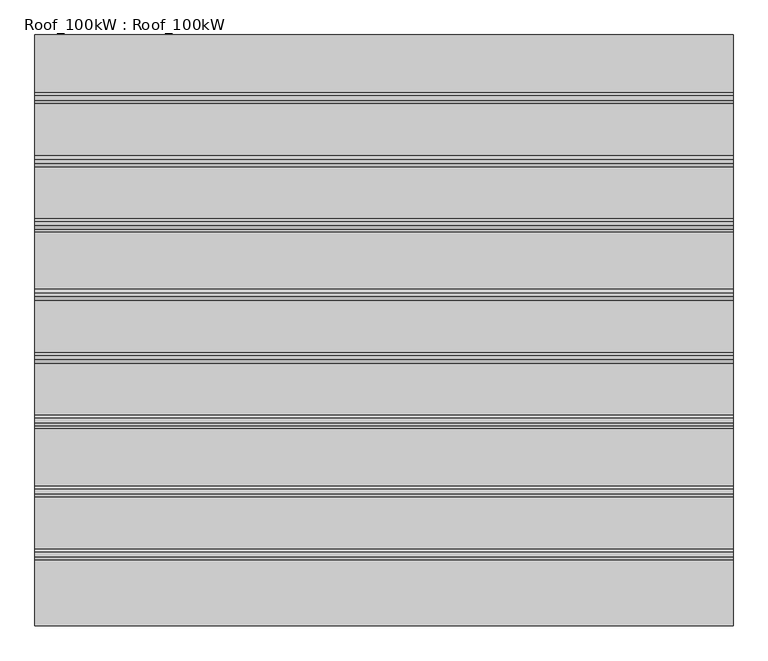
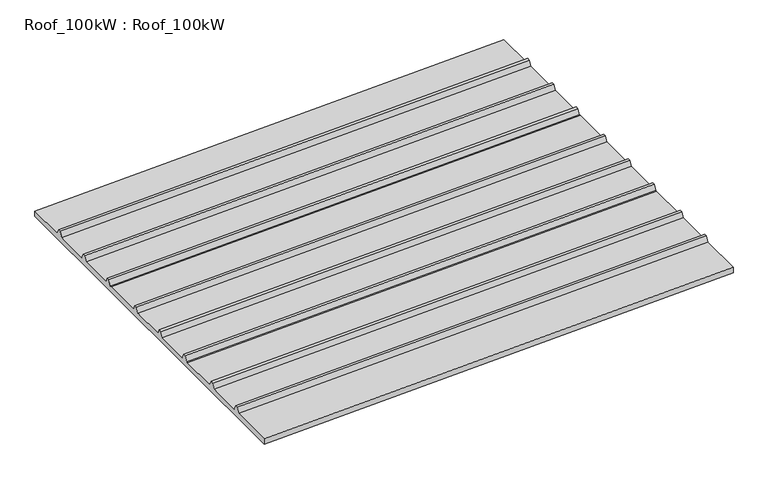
"""IFC4 building model written with IfcOpenShell, lengths in millimetres: beam geometry, Roof_100kW : Roof_100kW."""

from ifc_helpers import new_model, si_unit, origin, place, context, project, spatial, faceted_brep, source, transform, mapped, element, save


def roof_100kw_roof_100kw_9b547386(model_context):
    return source(origin(), model_context, "Body", "Brep", [
        faceted_brep([(0.0, 2948.0232819, 3437.3198687), (0.0, 2948.0232819, 3517.2711391), (0.0, 2391.600025, 3517.2711391), (0.0, 2357.960723, 3589.4108551), (0.0, 2317.960723, 3589.4108551), (0.0, 2284.321421, 3517.2711391), (0.0, 1781.8970224, 3517.2711391), (0.0, 1748.2577204, 3589.4108551), (0.0, 1708.2577204, 3589.4108551), (0.0, 1674.6184184, 3517.2711391), (0.0, 1176.3625839, 3517.2711391), (0.0, 1142.7232819, 3589.4108551), (0.0, 1102.7232819, 3589.4108551), (0.0, 1069.0839799, 3517.2711391), (0.0, 1048.0232819, 3517.2711391), (0.0, 491.600025, 3517.2711391), (0.0, 457.960723, 3589.4108551), (0.0, 417.960723, 3589.4108551), (0.0, 384.321421, 3517.2711391), (0.0, -118.1029776, 3517.2711391), (0.0, -151.7422796, 3589.4108551), (0.0, -191.7422796, 3589.4108551), (0.0, -225.3815816, 3517.2711391), (0.0, -723.6374161, 3517.2711391), (0.0, -757.2767181, 3589.4108551), (0.0, -797.2767181, 3589.4108551), (0.0, -830.9160201, 3517.2711391), (0.0, -851.9767181, 3517.2711391), (0.0, -1408.399975, 3517.2711391), (0.0, -1442.039277, 3589.4108551), (0.0, -1482.039277, 3589.4108551), (0.0, -1515.678579, 3517.2711391), (0.0, -2018.1029776, 3517.2711391), (0.0, -2051.7422796, 3589.4108551), (0.0, -2091.7422796, 3589.4108551), (0.0, -2125.3815816, 3517.2711391), (0.0, -2760.9767181, 3517.2711391), (0.0, -2760.9767181, 3437.3198687), (0.0, -851.9767181, 3437.3198687), (0.0, 1048.0232819, 3437.3198687), (-6744.4710816, 2948.0232819, 3192.3198687), (-6744.4710816, 1048.0232819, 3192.3198687), (-6744.4710816, -851.9767181, 3192.3198687), (-6744.4710816, -2760.9767181, 3192.3198687), (-6744.4710816, -2760.9767181, 3272.2711391), (-6744.4710816, -2125.3815816, 3272.2711391), (-6744.4710816, -2091.7422796, 3344.4108551), (-6744.4710816, -2051.7422796, 3344.4108551), (-6744.4710816, -2018.1029776, 3272.2711391), (-6744.4710816, -1515.678579, 3272.2711391), (-6744.4710816, -1482.039277, 3344.4108551), (-6744.4710816, -1442.039277, 3344.4108551), (-6744.4710816, -1408.399975, 3272.2711391), (-6744.4710816, -851.9767181, 3272.2711391), (-6744.4710816, -830.9160201, 3272.2711391), (-6744.4710816, -797.2767181, 3344.4108551), (-6744.4710816, -757.2767181, 3344.4108551), (-6744.4710816, -723.6374161, 3272.2711391), (-6744.4710816, -225.3815816, 3272.2711391), (-6744.4710816, -191.7422796, 3344.4108551), (-6744.4710816, -151.7422796, 3344.4108551), (-6744.4710816, -118.1029776, 3272.2711391), (-6744.4710816, 384.321421, 3272.2711391), (-6744.4710816, 417.960723, 3344.4108551), (-6744.4710816, 457.960723, 3344.4108551), (-6744.4710816, 491.600025, 3272.2711391), (-6744.4710816, 1048.0232819, 3272.2711391), (-6744.4710816, 1069.0839799, 3272.2711391), (-6744.4710816, 1102.7232819, 3344.4108551), (-6744.4710816, 1142.7232819, 3344.4108551), (-6744.4710816, 1176.3625839, 3272.2711391), (-6744.4710816, 1674.6184184, 3272.2711391), (-6744.4710816, 1708.2577204, 3344.4108551), (-6744.4710816, 1748.2577204, 3344.4108551), (-6744.4710816, 1781.8970224, 3272.2711391), (-6744.4710816, 2284.321421, 3272.2711391), (-6744.4710816, 2317.960723, 3344.4108551), (-6744.4710816, 2357.960723, 3344.4108551), (-6744.4710816, 2391.600025, 3272.2711391), (-6744.4710816, 2948.0232819, 3272.2711391)], [[[0, 1, 2, 3, 4, 5, 6, 7, 8, 9, 10, 11, 12, 13, 14, 15, 16, 17, 18, 19, 20, 21, 22, 23, 24, 25, 26, 27, 28, 29, 30, 31, 32, 33, 34, 35, 36, 37, 38, 39]], [[40, 41, 42, 43, 44, 45, 46, 47, 48, 49, 50, 51, 52, 53, 54, 55, 56, 57, 58, 59, 60, 61, 62, 63, 64, 65, 66, 67, 68, 69, 70, 71, 72, 73, 74, 75, 76, 77, 78, 79]], [[40, 79, 1, 0]], [[79, 78, 2, 1]], [[78, 77, 3, 2]], [[77, 76, 4, 3]], [[76, 75, 5, 4]], [[75, 74, 6, 5]], [[74, 73, 7, 6]], [[73, 72, 8, 7]], [[72, 71, 9, 8]], [[71, 70, 10, 9]], [[70, 69, 11, 10]], [[69, 68, 12, 11]], [[68, 67, 13, 12]], [[67, 66, 14, 13]], [[66, 65, 15, 14]], [[65, 64, 16, 15]], [[64, 63, 17, 16]], [[63, 62, 18, 17]], [[62, 61, 19, 18]], [[61, 60, 20, 19]], [[60, 59, 21, 20]], [[59, 58, 22, 21]], [[58, 57, 23, 22]], [[57, 56, 24, 23]], [[56, 55, 25, 24]], [[55, 54, 26, 25]], [[54, 53, 27, 26]], [[53, 52, 28, 27]], [[52, 51, 29, 28]], [[51, 50, 30, 29]], [[50, 49, 31, 30]], [[49, 48, 32, 31]], [[48, 47, 33, 32]], [[47, 46, 34, 33]], [[46, 45, 35, 34]], [[45, 44, 36, 35]], [[44, 43, 37, 36]], [[43, 42, 38, 37]], [[42, 41, 39, 38]], [[41, 40, 0, 39]]]),
    ])


if __name__ == "__main__":
    model = new_model("IFC4")
    model_context = context("Model", 3, world=origin())
    ifc_project = project(units=[si_unit("LENGTHUNIT", "METRE", prefix="MILLI")], contexts=[model_context])
    site = spatial("IfcSite", under=ifc_project)
    building = spatial("IfcBuilding", under=site)
    placement = place(None, origin())
    roof_100kw_roof_100kw_shape = roof_100kw_roof_100kw_9b547386(model_context)
    element("IfcBeam", 1, ObjectType="Roof_100kW : Roof_100kW", at=placement, inside=building, context=model_context, shape_type="MappedRepresentation", body=[
        mapped(roof_100kw_roof_100kw_shape, transform((0.0, 0.0, 0.0), x_axis=(1.0, 0.0, 0.0), y_axis=(0.0, 1.0, 0.0), z_axis=(0.0, 0.0, 1.0))),
    ])
    save(model, "model.ifc")
